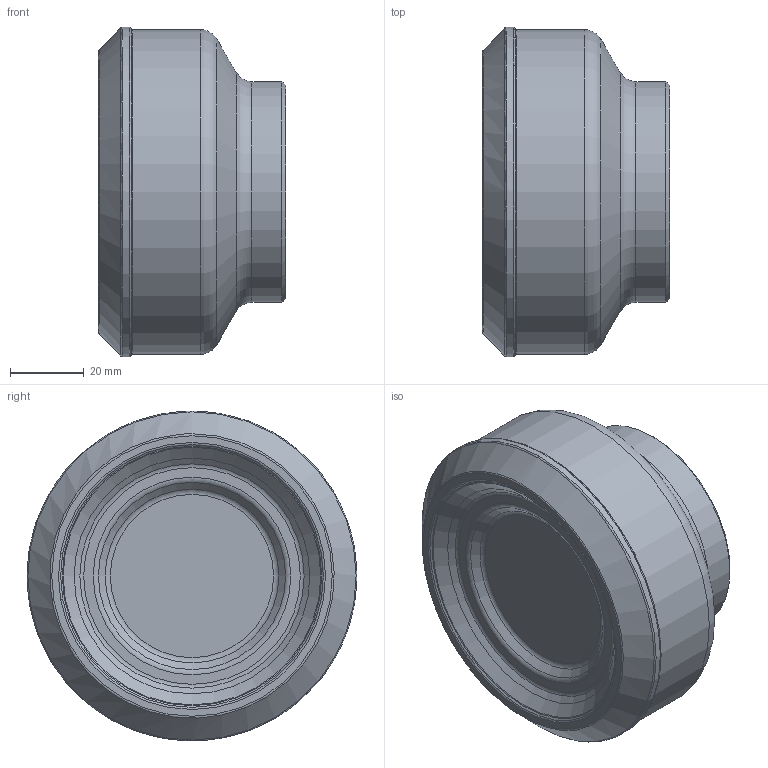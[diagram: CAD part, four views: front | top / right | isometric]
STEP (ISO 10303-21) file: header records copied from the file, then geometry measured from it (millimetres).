
FILE_DESCRIPTION(/* description */ (''),/* implementation_level */ '2;1');
FILE_NAME(/* name */ 'FMA01-3.00''''-A1.00''''-SE12-06.stp',/* time_stamp */ '2022-03-29T10:24:15+08:00',/* author */ (''),/* organization */ (''),/* preprocessor_version */ 'ST-DEVELOPER v16.7',/* originating_system */ 'SIEMENS PLM Software NX 12.0',/* authorisation */ '');
FILE_SCHEMA (('AUTOMOTIVE_DESIGN { 1 0 10303 214 3 1 1 1 }'));
Length unit declared in the file: millimetre
Products named in the file (1): heyu23945552hg5w
Bounding box: 50.8 x 89.6 x 89.6 mm (x, y, z)
Volume: 230033.2 mm3; surface area: 22843.7 mm2
Topology: 1 solids, 1 shells, 25 faces, 61 edges, 40 vertices
Faces by surface type: revolution 9, torus 6, plane 4, cone 4, cylinder 2
Full cylindrical faces by diameter (mm): 60 x1, 88.2 x1
Entity records: 557 total; most frequent: DIRECTION 104, CARTESIAN_POINT 83, EDGE_LOOP 48, ORIENTED_EDGE 48, FACE_BOUND 46, AXIS2_PLACEMENT_3D 45, CIRCLE 28, ADVANCED_FACE 25
